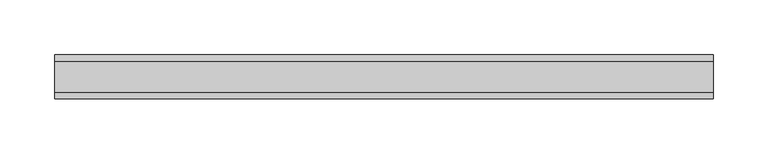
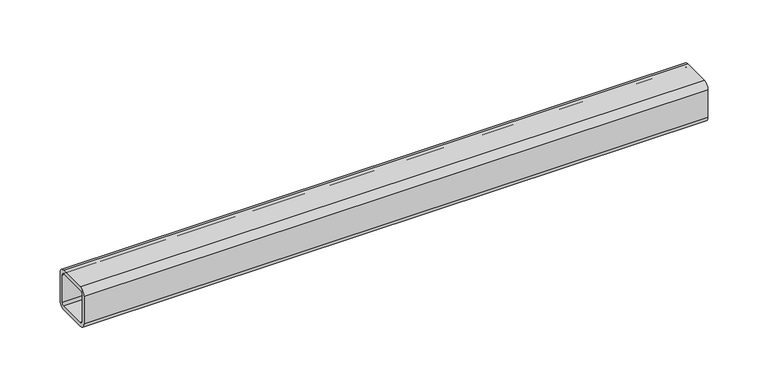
"""IFC4 building model written with IfcOpenShell, lengths in millimetres: beam geometry, SF_Rod_П : ГОСТ 8639-82_☐40x4."""

from ifc_helpers import new_model, si_unit, point, frame, frame_2d, origin, place, context, project, spatial, polyline, circle_curve, trimmed, segment, composite_curve, outline, extrude, source, transform, mapped, element, save


def beam_bfae809e(model_context):
    return source(origin(), model_context, "Body", "SweptSolid", [
        extrude(outline(composite_curve([segment(polyline([(20.0, 14.0), (20.0, -14.0)]), True, "CONTINUOUS"), segment(trimmed(circle_curve(frame_2d((14.0, -14.0)), 6.0), [point((20.0, -14.0))], [point((14.0, -20.0))], False, "CARTESIAN"), True, "CONTINUOUS"), segment(polyline([(14.0, -20.0), (-14.0, -20.0)]), True, "CONTINUOUS"), segment(trimmed(circle_curve(frame_2d((-14.0, -14.0)), 6.0), [point((-14.0, -20.0))], [point((-20.0, -14.0))], False, "CARTESIAN"), True, "CONTINUOUS"), segment(polyline([(-20.0, -14.0), (-20.0, 14.0)]), True, "CONTINUOUS"), segment(trimmed(circle_curve(frame_2d((-14.0, 14.0)), 6.0), [point((-20.0, 14.0))], [point((-14.0, 20.0))], False, "CARTESIAN"), True, "CONTINUOUS"), segment(polyline([(-14.0, 20.0), (14.0, 20.0)]), True, "CONTINUOUS"), segment(trimmed(circle_curve(frame_2d((14.0, 14.0)), 6.0), [point((14.0, 20.0))], [point((20.0, 14.0))], False, "CARTESIAN"), True, "CONTINUOUS")], self_intersect=False), holes=[composite_curve([segment(trimmed(circle_curve(frame_2d((-14.0, 14.0)), 2.0), [point((-14.0, 16.0))], [point((-16.0, 14.0))], True, "CARTESIAN"), True, "CONTINUOUS"), segment(polyline([(-16.0, 14.0), (-16.0, -14.0)]), True, "CONTINUOUS"), segment(trimmed(circle_curve(frame_2d((-14.0, -14.0)), 2.0), [point((-16.0, -14.0))], [point((-14.0, -16.0))], True, "CARTESIAN"), True, "CONTINUOUS"), segment(polyline([(-14.0, -16.0), (14.0, -16.0)]), True, "CONTINUOUS"), segment(trimmed(circle_curve(frame_2d((14.0, -14.0)), 2.0), [point((14.0, -16.0))], [point((16.0, -14.0))], True, "CARTESIAN"), True, "CONTINUOUS"), segment(polyline([(16.0, -14.0), (16.0, 14.0)]), True, "CONTINUOUS"), segment(trimmed(circle_curve(frame_2d((14.0, 14.0)), 2.0), [point((16.0, 14.0))], [point((14.0, 16.0))], True, "CARTESIAN"), True, "CONTINUOUS"), segment(polyline([(14.0, 16.0), (-14.0, 16.0)]), True, "CONTINUOUS")], self_intersect=False)]), frame((-300.0, 0.0, 0.0), z_axis=(1.0, 0.0, 0.0), x_axis=(0.0, 1.0, 0.0)), (0.0, 0.0, 1.0), 600.0),
    ])


if __name__ == "__main__":
    model = new_model("IFC4")
    model_context = context("Model", 3, world=origin())
    ifc_project = project(units=[si_unit("LENGTHUNIT", "METRE", prefix="MILLI")], contexts=[model_context])
    site = spatial("IfcSite", under=ifc_project)
    building = spatial("IfcBuilding", under=site)
    placement = place(None, origin())
    beam_shape = beam_bfae809e(model_context)
    element("IfcBeam", 1, ObjectType="SF_Rod_П : ГОСТ 8639-82_☐40x4", at=placement, inside=building, context=model_context, shape_type="MappedRepresentation", body=[
        mapped(beam_shape, transform((0.0, 0.0, 0.0), x_axis=(1.0, 0.0, 0.0), y_axis=(0.0, 1.0, 0.0), z_axis=(0.0, 0.0, 1.0))),
    ])
    save(model, "model.ifc")
